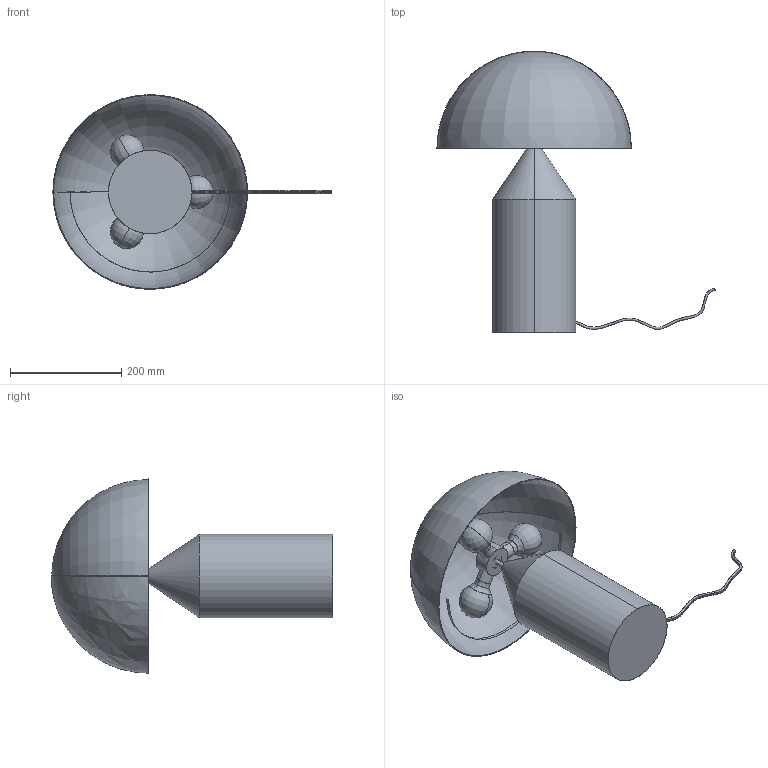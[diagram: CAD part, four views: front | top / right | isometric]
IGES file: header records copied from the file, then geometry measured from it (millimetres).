
Start section: SolidWorks IGES file using analytic representation for surfaces
Global section: file name: F:\李明祥\3D\8月\8月待上传\Atollo Metal Table Lamp-D35XH50.IGS; native system: SolidWorks 2022; preprocessor: SolidWorks 2022; author: MyPC; date: 230827.153541; units: millimetre
Bounding box: 500.47 x 506.66 x 350 mm (x, y, z)
Surface area: 631719.1 mm2 (no closed solid volume)
Topology: 0 solids, 0 shells, 100 faces, 1404 edges, 1399 vertices
Faces by surface type: revolution 60, bspline 40
